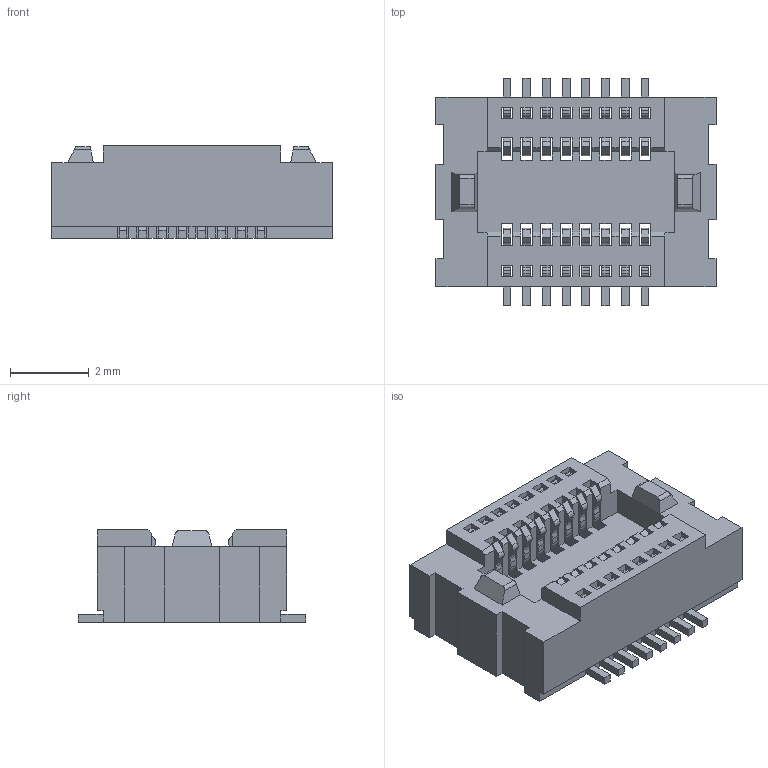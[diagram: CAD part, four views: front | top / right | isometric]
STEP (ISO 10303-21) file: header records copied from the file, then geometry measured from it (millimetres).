
FILE_DESCRIPTION(('CATIA V5 STEP Exchange'),'2;1');
FILE_NAME('F:\黄富鸿\板对板\0.5 单槽\无柱\母座\H2.35\HC-PBB05-1-16-F-H2.35-G1-R-06 (BTB0.5 单槽 母座 立贴 编带)-HCTL.stp','2026-01-21T07:35:53+00:00',('none'),('none'),'CATIA Version 5 Release 20 GA (IN-10)','CATIA V5 STEP AP203','none');
FILE_SCHEMA(('CONFIG_CONTROL_DESIGN'));
Length unit declared in the file: millimetre
Products named in the file (1): Part2
Bounding box: 7.1 x 5.76 x 2.35 mm (x, y, z)
Volume: 54.8 mm3; surface area: 305 mm2
Topology: 17 solids, 17 shells, 758 faces, 2312 edges, 1540 vertices
Faces by surface type: plane 530, cylinder 228
Entity records: 22384 total; most frequent: ORIENTED_EDGE 4624, CARTESIAN_POINT 4065, DIRECTION 2572, EDGE_CURVE 2312, VECTOR 1856, LINE 1856, VERTEX_POINT 1540, EDGE_LOOP 774
